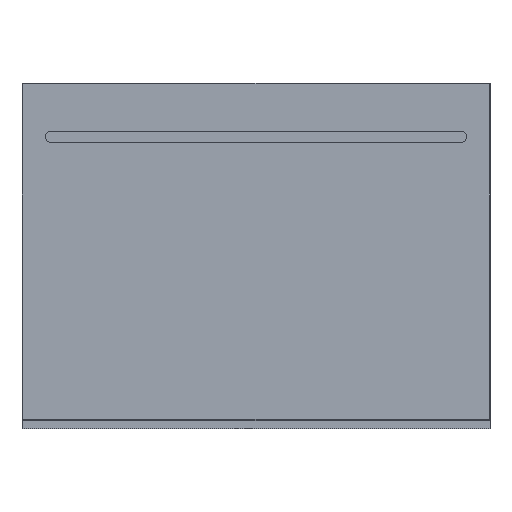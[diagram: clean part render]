
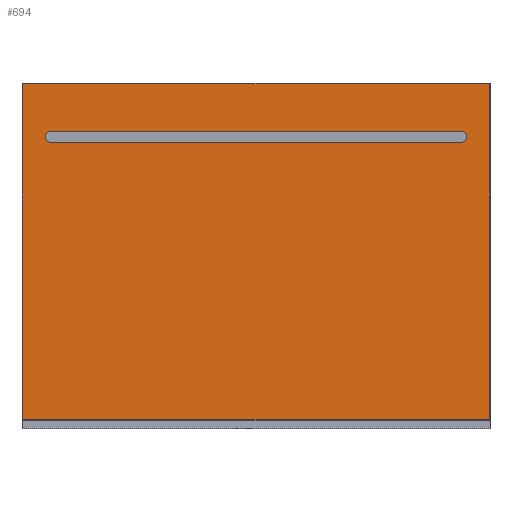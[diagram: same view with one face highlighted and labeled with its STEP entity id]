
A CAD part, top view. The second image highlights one B-rep face of the part: STEP entity #694.
In plain terms, the highlighted planar face has unit normal (0, 0, 1).
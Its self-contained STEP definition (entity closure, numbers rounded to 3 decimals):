
#123=CARTESIAN_POINT('',(-435.,254.5,7.5));
#124=DIRECTION('',(0.,0.,1.));
#125=DIRECTION('',(1.,0.,0.));
#126=AXIS2_PLACEMENT_3D('',#123,#124,#125);
#128=CARTESIAN_POINT('',(-435.,254.5,7.5));
#129=DIRECTION('',(0.,0.,1.));
#130=DIRECTION('',(-1.,0.,0.));
#131=AXIS2_PLACEMENT_3D('',#128,#129,#130);
#133=CARTESIAN_POINT('',(435.,254.5,7.5));
#134=DIRECTION('',(0.,0.,1.));
#135=DIRECTION('',(1.,0.,0.));
#136=AXIS2_PLACEMENT_3D('',#133,#134,#135);
#138=CARTESIAN_POINT('',(435.,254.5,7.5));
#139=DIRECTION('',(0.,0.,1.));
#140=DIRECTION('',(-1.,0.,0.));
#141=AXIS2_PLACEMENT_3D('',#138,#139,#140);
#143=DIRECTION('',(-1.,0.,0.));
#144=VECTOR('',#143,996.4);
#145=CARTESIAN_POINT('',(498.2,-348.7,7.5));
#146=LINE('',#145,#144);
#147=DIRECTION('',(0.,1.,0.));
#148=VECTOR('',#147,716.4);
#149=CARTESIAN_POINT('',(-498.2,-348.7,7.5));
#150=LINE('',#149,#148);
#151=DIRECTION('',(-1.,0.,0.));
#152=VECTOR('',#151,996.4);
#153=CARTESIAN_POINT('',(498.2,367.7,7.5));
#154=LINE('',#153,#152);
#155=DIRECTION('',(0.,-1.,0.));
#156=VECTOR('',#155,716.4);
#157=CARTESIAN_POINT('',(498.2,367.7,7.5));
#158=LINE('',#157,#156);
#420=CARTESIAN_POINT('',(-425.,254.5,7.5));
#421=CARTESIAN_POINT('',(-445.,254.5,7.5));
#422=VERTEX_POINT('',#420);
#423=VERTEX_POINT('',#421);
#424=CARTESIAN_POINT('',(445.,254.5,7.5));
#425=CARTESIAN_POINT('',(425.,254.5,7.5));
#426=VERTEX_POINT('',#424);
#427=VERTEX_POINT('',#425);
#488=CARTESIAN_POINT('',(498.2,-348.7,7.5));
#489=CARTESIAN_POINT('',(-498.2,-348.7,7.5));
#490=VERTEX_POINT('',#488);
#491=VERTEX_POINT('',#489);
#508=CARTESIAN_POINT('',(-498.2,367.7,7.5));
#509=VERTEX_POINT('',#508);
#510=CARTESIAN_POINT('',(498.2,367.7,7.5));
#511=VERTEX_POINT('',#510);
#670=CARTESIAN_POINT('',(-500.,369.5,7.5));
#671=DIRECTION('',(0.,0.,1.));
#672=DIRECTION('',(0.,-1.,0.));
#673=AXIS2_PLACEMENT_3D('',#670,#671,#672);
#674=PLANE('',#673);
#675=ORIENTED_EDGE('',*,*,#608,.T.);
#676=ORIENTED_EDGE('',*,*,#636,.T.);
#677=ORIENTED_EDGE('',*,*,#660,.F.);
#679=ORIENTED_EDGE('',*,*,#678,.T.);
#680=EDGE_LOOP('',(#675,#676,#677,#679));
#681=FACE_OUTER_BOUND('',#680,.F.);
#683=ORIENTED_EDGE('',*,*,#682,.T.);
#685=ORIENTED_EDGE('',*,*,#684,.T.);
#686=EDGE_LOOP('',(#683,#685));
#687=FACE_BOUND('',#686,.F.);
#689=ORIENTED_EDGE('',*,*,#688,.T.);
#691=ORIENTED_EDGE('',*,*,#690,.T.);
#692=EDGE_LOOP('',(#689,#691));
#693=FACE_BOUND('',#692,.F.);
#127=CIRCLE('',#126,10.);
#132=CIRCLE('',#131,10.);
#137=CIRCLE('',#136,10.);
#142=CIRCLE('',#141,10.);
#608=EDGE_CURVE('',#490,#491,#146,.T.);
#636=EDGE_CURVE('',#491,#509,#150,.T.);
#660=EDGE_CURVE('',#511,#509,#154,.T.);
#678=EDGE_CURVE('',#511,#490,#158,.T.);
#682=EDGE_CURVE('',#426,#427,#137,.T.);
#684=EDGE_CURVE('',#427,#426,#142,.T.);
#688=EDGE_CURVE('',#422,#423,#127,.T.);
#690=EDGE_CURVE('',#423,#422,#132,.T.);
#694=ADVANCED_FACE('',(#681,#687,#693),#674,.T.);
